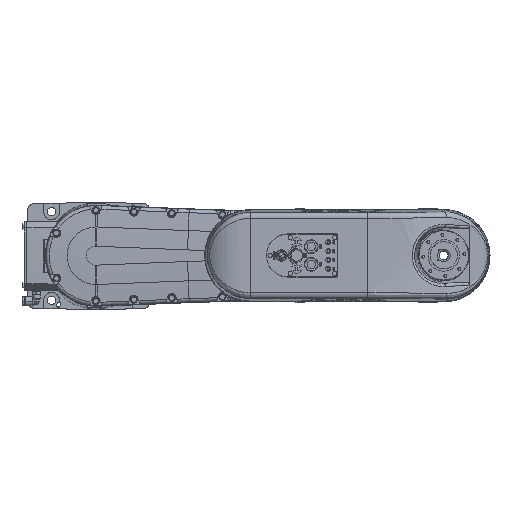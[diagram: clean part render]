
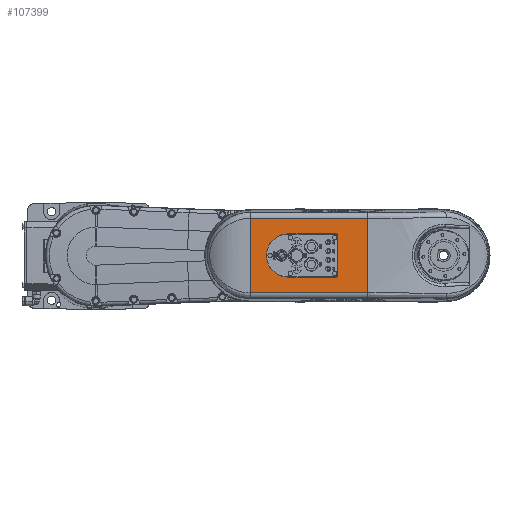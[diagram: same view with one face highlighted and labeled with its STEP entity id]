
A CAD part, top view. The second image highlights one B-rep face of the part: STEP entity #107399.
In plain terms, the highlighted planar face has unit normal (0, 0, 1).
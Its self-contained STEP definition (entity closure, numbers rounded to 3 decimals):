
#340 = ORIENTED_EDGE ( 'NONE', *, *, #60476, .T. ) ;
#959 = ORIENTED_EDGE ( 'NONE', *, *, #9000, .F. ) ;
#1428 = EDGE_CURVE ( 'NONE', #71824, #37105, #4329, .T. ) ;
#4329 = LINE ( 'NONE', #97148, #57894 ) ;
#5769 = FACE_BOUND ( 'NONE', #81921, .T. ) ;
#6152 = VERTEX_POINT ( 'NONE', #26619 ) ;
#6292 = VERTEX_POINT ( 'NONE', #53456 ) ;
#6850 = EDGE_CURVE ( 'NONE', #7585, #71547, #56443, .T. ) ;
#7585 = VERTEX_POINT ( 'NONE', #52849 ) ;
#7780 = ORIENTED_EDGE ( 'NONE', *, *, #89414, .T. ) ;
#8323 = CARTESIAN_POINT ( 'NONE',  ( 245., -59.156, 457.7 ) ) ;
#8573 = ORIENTED_EDGE ( 'NONE', *, *, #6850, .T. ) ;
#9000 = EDGE_CURVE ( 'NONE', #6292, #71547, #63132, .T. ) ;
#10109 = CARTESIAN_POINT ( 'NONE',  ( 382.5, 32.001, 457.7 ) ) ;
#10576 = CARTESIAN_POINT ( 'NONE',  ( 245., -705.242, 457.7 ) ) ;
#13263 = VERTEX_POINT ( 'NONE', #29397 ) ;
#13596 = ORIENTED_EDGE ( 'NONE', *, *, #102389, .F. ) ;
#15133 = FACE_OUTER_BOUND ( 'NONE', #30786, .T. ) ;
#15408 = DIRECTION ( 'NONE',  ( 0., 0., 1. ) ) ;
#18346 = CARTESIAN_POINT ( 'NONE',  ( 380.501, -34., 457.7 ) ) ;
#19128 = DIRECTION ( 'NONE',  ( 1., 0., 0. ) ) ;
#21744 = CARTESIAN_POINT ( 'NONE',  ( 382.5, 33.172, 457.7 ) ) ;
#22845 = CARTESIAN_POINT ( 'NONE',  ( 380.501, 34., 457.7 ) ) ;
#23472 = CARTESIAN_POINT ( 'NONE',  ( 382.5, 34., 457.7 ) ) ;
#24134 = VECTOR ( 'NONE', #108158, 1000. ) ;
#24771 = LINE ( 'NONE', #38674, #106285 ) ;
#26161 = EDGE_CURVE ( 'NONE', #37105, #101134, #93401, .T. ) ;
#26619 = CARTESIAN_POINT ( 'NONE',  ( 380.501, -34., 457.7 ) ) ;
#26782 = CARTESIAN_POINT ( 'NONE',  ( 245., 59.156, 457.7 ) ) ;
#26902 = EDGE_CURVE ( 'NONE', #46878, #101134, #37102, .T. ) ;
#29397 = CARTESIAN_POINT ( 'NONE',  ( 303.5, 34., 457.7 ) ) ;
#30154 = LINE ( 'NONE', #86773, #35598 ) ;
#30786 = EDGE_LOOP ( 'NONE', ( #70013, #82929, #64456, #7780 ) ) ;
#34738 = CARTESIAN_POINT ( 'NONE',  ( 381.672, -34., 457.7 ) ) ;
#35598 = VECTOR ( 'NONE', #19128, 1000. ) ;
#37102 = LINE ( 'NONE', #10576, #49138 ) ;
#37105 = VERTEX_POINT ( 'NONE', #101492 ) ;
#38674 = CARTESIAN_POINT ( 'NONE',  ( 430., -59.156, 457.7 ) ) ;
#41897 = LINE ( 'NONE', #23472, #24134 ) ;
#45921 = DIRECTION ( 'NONE',  ( 0., 1., 0. ) ) ;
#46878 = VERTEX_POINT ( 'NONE', #8323 ) ;
#49138 = VECTOR ( 'NONE', #63279, 1000. ) ;
#50762 = DIRECTION ( 'NONE',  ( -1., 0., 0. ) ) ;
#51262 = AXIS2_PLACEMENT_3D ( 'NONE', #106210, #98780, #80538 ) ;
#52849 = CARTESIAN_POINT ( 'NONE',  ( 380.501, 34., 457.7 ) ) ;
#53456 = CARTESIAN_POINT ( 'NONE',  ( 382.5, -32.001, 457.7 ) ) ;
#56443 =( BOUNDED_CURVE ( )  B_SPLINE_CURVE ( 3, ( #22845, #65814, #21744, #57970 ),
 .UNSPECIFIED., .F., .T. ) 
 B_SPLINE_CURVE_WITH_KNOTS ( ( 4, 4 ),
 ( 2.357, 3.927 ),
 .UNSPECIFIED. ) 
 CURVE ( )  GEOMETRIC_REPRESENTATION_ITEM ( )  RATIONAL_B_SPLINE_CURVE ( ( 1., 0.805, 0.805, 1. ) ) 
 REPRESENTATION_ITEM ( '' )  );
#57598 = DIRECTION ( 'NONE',  ( 0., 1., 0. ) ) ;
#57646 = AXIS2_PLACEMENT_3D ( 'NONE', #92346, #15408, #83762 ) ;
#57894 = VECTOR ( 'NONE', #45921, 1000. ) ;
#57970 = CARTESIAN_POINT ( 'NONE',  ( 382.5, 32.001, 457.7 ) ) ;
#60228 = CARTESIAN_POINT ( 'NONE',  ( 382.5, -32.001, 457.7 ) ) ;
#60476 = EDGE_CURVE ( 'NONE', #6292, #6152, #70333, .T. ) ;
#63132 = LINE ( 'NONE', #65073, #80482 ) ;
#63279 = DIRECTION ( 'NONE',  ( 0., 1., 0. ) ) ;
#63955 = EDGE_CURVE ( 'NONE', #87189, #6152, #30154, .T. ) ;
#64456 = ORIENTED_EDGE ( 'NONE', *, *, #26902, .F. ) ;
#65073 = CARTESIAN_POINT ( 'NONE',  ( 382.5, 34., 457.7 ) ) ;
#65814 = CARTESIAN_POINT ( 'NONE',  ( 381.672, 34., 457.7 ) ) ;
#68428 = CARTESIAN_POINT ( 'NONE',  ( 382.5, -33.172, 457.7 ) ) ;
#70013 = ORIENTED_EDGE ( 'NONE', *, *, #1428, .T. ) ;
#70333 =( BOUNDED_CURVE ( )  B_SPLINE_CURVE ( 3, ( #60228, #68428, #34738, #18346 ),
 .UNSPECIFIED., .F., .F. ) 
 B_SPLINE_CURVE_WITH_KNOTS ( ( 4, 4 ),
 ( 2.357, 3.927 ),
 .UNSPECIFIED. ) 
 CURVE ( )  GEOMETRIC_REPRESENTATION_ITEM ( )  RATIONAL_B_SPLINE_CURVE ( ( 1., 0.805, 0.805, 1. ) ) 
 REPRESENTATION_ITEM ( '' )  );
#71387 = EDGE_CURVE ( 'NONE', #13263, #87189, #85361, .T. ) ;
#71547 = VERTEX_POINT ( 'NONE', #10109 ) ;
#71824 = VERTEX_POINT ( 'NONE', #100038 ) ;
#80482 = VECTOR ( 'NONE', #57598, 1000. ) ;
#80538 = DIRECTION ( 'NONE',  ( 0., -1., 0. ) ) ;
#81646 = DIRECTION ( 'NONE',  ( 1., 0., 0. ) ) ;
#81921 = EDGE_LOOP ( 'NONE', ( #13596, #8573, #959, #340, #94334, #106839 ) ) ;
#82929 = ORIENTED_EDGE ( 'NONE', *, *, #26161, .T. ) ;
#83762 = DIRECTION ( 'NONE',  ( 0., 1., 0. ) ) ;
#85361 = CIRCLE ( 'NONE', #57646, 34. ) ;
#86773 = CARTESIAN_POINT ( 'NONE',  ( 382.5, -34., 457.7 ) ) ;
#87189 = VERTEX_POINT ( 'NONE', #92605 ) ;
#89414 = EDGE_CURVE ( 'NONE', #46878, #71824, #24771, .T. ) ;
#92346 = CARTESIAN_POINT ( 'NONE',  ( 303.5, 0., 457.7 ) ) ;
#92605 = CARTESIAN_POINT ( 'NONE',  ( 303.5, -34., 457.7 ) ) ;
#93401 = LINE ( 'NONE', #26782, #97492 ) ;
#94334 = ORIENTED_EDGE ( 'NONE', *, *, #63955, .F. ) ;
#97148 = CARTESIAN_POINT ( 'NONE',  ( 430., -705.455, 457.7 ) ) ;
#97341 = PLANE ( 'NONE',  #51262 ) ;
#97492 = VECTOR ( 'NONE', #50762, 1000. ) ;
#98780 = DIRECTION ( 'NONE',  ( 0., 0., 1. ) ) ;
#100038 = CARTESIAN_POINT ( 'NONE',  ( 430., -59.156, 457.7 ) ) ;
#101134 = VERTEX_POINT ( 'NONE', #110390 ) ;
#101492 = CARTESIAN_POINT ( 'NONE',  ( 430., 59.156, 457.7 ) ) ;
#102389 = EDGE_CURVE ( 'NONE', #7585, #13263, #41897, .T. ) ;
#106210 = CARTESIAN_POINT ( 'NONE',  ( 245., 0., 457.7 ) ) ;
#106285 = VECTOR ( 'NONE', #81646, 1000. ) ;
#106839 = ORIENTED_EDGE ( 'NONE', *, *, #71387, .F. ) ;
#107399 = ADVANCED_FACE ( 'NONE', ( #15133, #5769 ), #97341, .T. ) ;
#108158 = DIRECTION ( 'NONE',  ( -1., 0., 0. ) ) ;
#110390 = CARTESIAN_POINT ( 'NONE',  ( 245., 59.156, 457.7 ) ) ;
